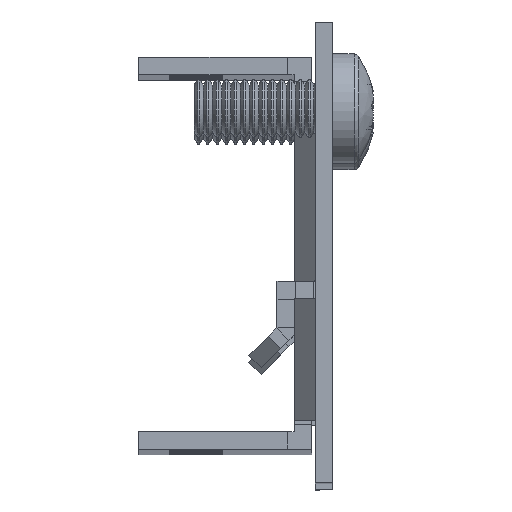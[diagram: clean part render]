
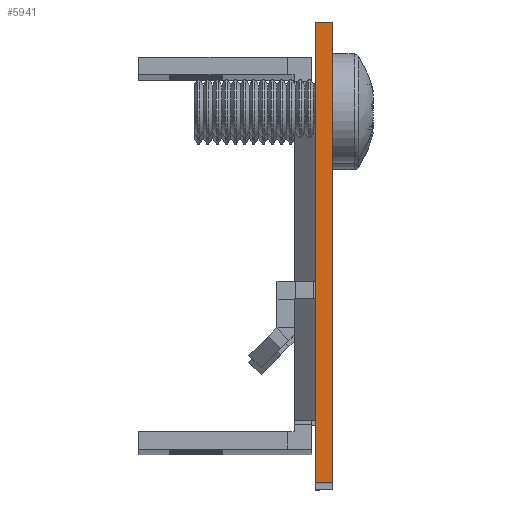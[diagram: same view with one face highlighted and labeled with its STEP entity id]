
A CAD part, top view. The second image highlights one B-rep face of the part: STEP entity #5941.
In plain terms, the highlighted planar face has unit normal (0, 0, 1) as drawn and (-1, 0, 0) by its records, which use the part's own axes.
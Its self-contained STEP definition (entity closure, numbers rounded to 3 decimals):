
#4156 = VERTEX_POINT('',#4157);
#4157 = CARTESIAN_POINT('',(-175.022,20.,1.802));
#4163 = EDGE_CURVE('',#4164,#4156,#4166,.T.);
#4164 = VERTEX_POINT('',#4165);
#4165 = CARTESIAN_POINT('',(-175.022,-20.,1.802));
#4166 = LINE('',#4167,#4168);
#4167 = CARTESIAN_POINT('',(-175.022,14.5,1.802));
#4168 = VECTOR('',#4169,1.);
#4169 = DIRECTION('',(-0.,1.,0.));
#4265 = EDGE_CURVE('',#4266,#4268,#4270,.T.);
#4266 = VERTEX_POINT('',#4267);
#4267 = CARTESIAN_POINT('',(-175.022,-20.,0.302));
#4268 = VERTEX_POINT('',#4269);
#4269 = CARTESIAN_POINT('',(-175.022,20.,0.302));
#4270 = LINE('',#4271,#4272);
#4271 = CARTESIAN_POINT('',(-175.022,0.,
    0.302));
#4272 = VECTOR('',#4273,1.);
#4273 = DIRECTION('',(0.,1.,0.));
#5941 = ADVANCED_FACE('',(#5942),#5958,.T.);
#5942 = FACE_BOUND('',#5943,.T.);
#5943 = EDGE_LOOP('',(#5944,#5945,#5951,#5952));
#5944 = ORIENTED_EDGE('',*,*,#4265,.F.);
#5945 = ORIENTED_EDGE('',*,*,#5946,.T.);
#5946 = EDGE_CURVE('',#4266,#4164,#5947,.T.);
#5947 = LINE('',#5948,#5949);
#5948 = CARTESIAN_POINT('',(-175.022,-20.,0.302));
#5949 = VECTOR('',#5950,1.);
#5950 = DIRECTION('',(0.,0.,1.));
#5951 = ORIENTED_EDGE('',*,*,#4163,.T.);
#5952 = ORIENTED_EDGE('',*,*,#5953,.F.);
#5953 = EDGE_CURVE('',#4268,#4156,#5954,.T.);
#5954 = LINE('',#5955,#5956);
#5955 = CARTESIAN_POINT('',(-175.022,20.,0.302));
#5956 = VECTOR('',#5957,1.);
#5957 = DIRECTION('',(0.,0.,1.));
#5958 = PLANE('',#5959);
#5959 = AXIS2_PLACEMENT_3D('',#5960,#5961,#5962);
#5960 = CARTESIAN_POINT('',(-175.022,14.5,1.802));
#5961 = DIRECTION('',(-1.,0.,0.));
#5962 = DIRECTION('',(0.,0.,1.));
